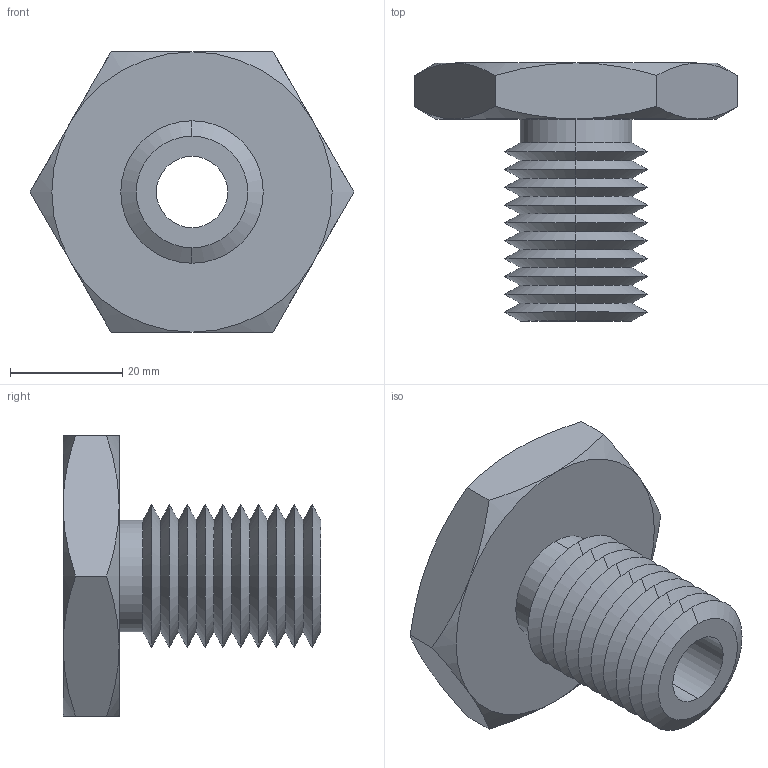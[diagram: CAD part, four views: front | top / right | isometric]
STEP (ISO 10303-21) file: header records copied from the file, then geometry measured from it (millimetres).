
FILE_DESCRIPTION (( 'STEP AP203' ), '1' );
FILE_NAME ('63302.W5100_0,50 UNC-13.step', '2013-12-08T11:40:28', ( 'User' ), ( '' ), 'SwSTEP 2.0', 'SolidWorks 2009', '' );
FILE_SCHEMA (( 'CONFIG_CONTROL_DESIGN' ));
Length unit declared in the file: millimetre
Products named in the file (1): 63302.W5100_0,50 UNC-13
Bounding box: 57.73 x 46 x 50 mm (x, y, z)
Volume: 29645 mm3; surface area: 12187.7 mm2
Topology: 1 solids, 1 shells, 67 faces, 138 edges, 74 vertices
Faces by surface type: cone 54, plane 9, cylinder 4
Entity records: 1939 total; most frequent: CARTESIAN_POINT 464, DIRECTION 312, ORIENTED_EDGE 276, EDGE_CURVE 138, AXIS2_PLACEMENT_3D 130, VERTEX_POINT 74, EDGE_LOOP 70, ADVANCED_FACE 67
